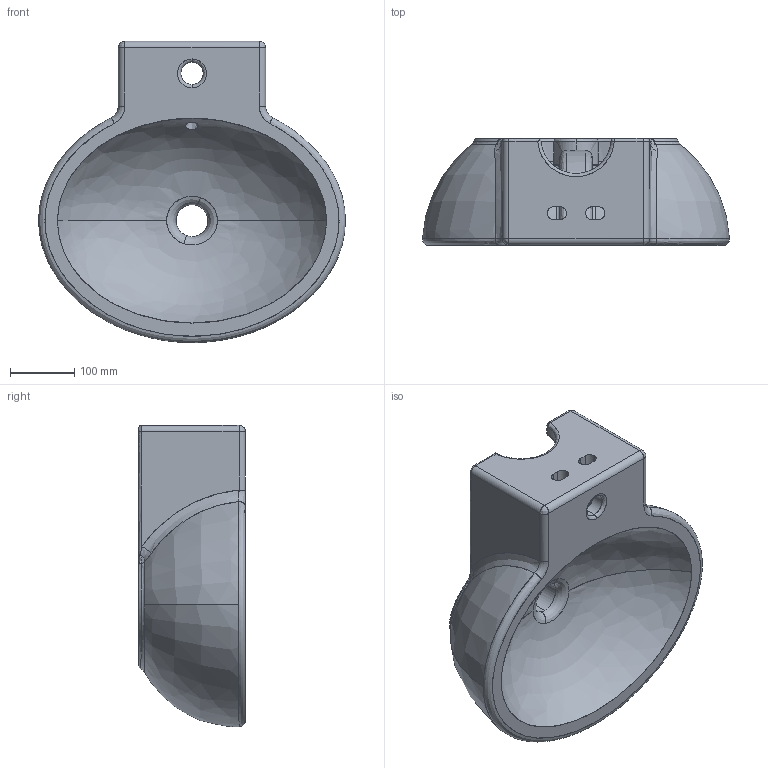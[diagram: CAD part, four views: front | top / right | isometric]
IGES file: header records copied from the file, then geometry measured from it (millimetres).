
Start section: Comment
Global section: file name: Planet ovale piccolo sospeso.igs; native system:  By UGS Corp.; preprocessor: XPlus GENERIC/IGES 3.0; author: Author; organization: Title; date: 20110617.145851; units: millimetre
Bounding box: 479.45 x 167 x 470.55 mm (x, y, z)
Surface area: 657661.9 mm2 (no closed solid volume)
Topology: 0 solids, 0 shells, 112 faces, 564 edges, 556 vertices
Faces by surface type: bspline 112
